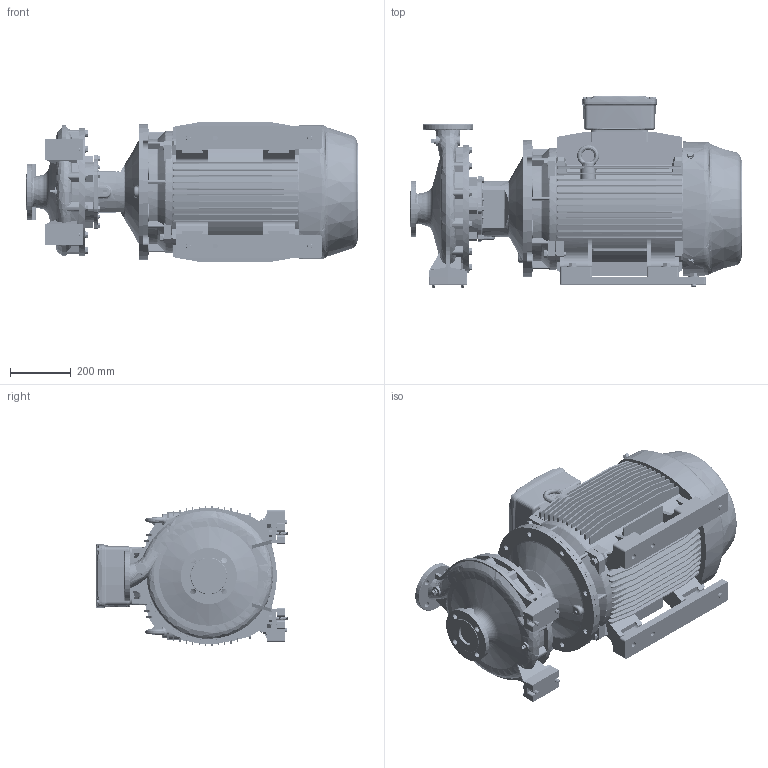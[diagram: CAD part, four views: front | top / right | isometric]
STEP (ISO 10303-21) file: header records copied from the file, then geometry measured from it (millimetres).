
FILE_DESCRIPTION (( 'STEP AP214' ), '1' );
FILE_NAME ('GSD2 50-315_45_(225SM)_W21.STEP', '2026-07-08T06:57:55', ( '' ), ( '' ), 'SwSTEP 2.0', 'SolidWorks 2024', '' );
FILE_SCHEMA (( 'AUTOMOTIVE_DESIGN' ));
Length unit declared in the file: millimetre
Products named in the file (13): Parametric bolt_SFT-A309B; 50-315-225S_M; Parametric bolt_SFT-A353B; GSD2  50-315_45_(225SM)_W21; Parametric Flat Washer_M16; Parametric bolt and washer_SFT-A309B; Parametric Flat Washer_M12; Parametric bolt_SFT-A359B; Parametric bolt and washer_SFT-A359B; CGS11-5311_2_3_4_5_CGS11-5312; Parametric bolt and washer_SFT-A355B; 225S_M2P IE3_W21T_B35; 80x25 -CGSDA-5281 (225) (Offset)
Assembly tree (22 placements, depth 3):
  GSD2  50-315_45_(225SM)_W21
    50-315-225S_M
    225S_M2P IE3_W21T_B35
    CGS11-5311_2_3_4_5_CGS11-5312  x2
    Parametric bolt and washer_SFT-A309B  x4
      Parametric bolt_SFT-A309B
      Parametric Flat Washer_M12
    Parametric bolt and washer_SFT-A355B  x2
      Parametric bolt_SFT-A353B
      Parametric Flat Washer_M16
    Parametric bolt and washer_SFT-A359B  x4
      Parametric bolt_SFT-A359B
      Parametric Flat Washer_M16
    80x25 -CGSDA-5281 (225) (Offset)  x2
Bounding box: 1094.5 x 635.5 x 459.72 mm (x, y, z)
Volume: 124327034.4 mm3; surface area: 4472016.4 mm2
Topology: 43 solids, 48 shells, 4359 faces, 11630 edges, 7488 vertices
Faces by surface type: plane 1813, cylinder 1464, cone 520, torus 292, bspline 255, sphere 15
Entity records: 169810 total; most frequent: CARTESIAN_POINT 76412, ORIENTED_EDGE 20474, DIRECTION 18508, EDGE_CURVE 10237, AXIS2_PLACEMENT_3D 6776, VERTEX_POINT 6589, LINE 4956, VECTOR 4956
